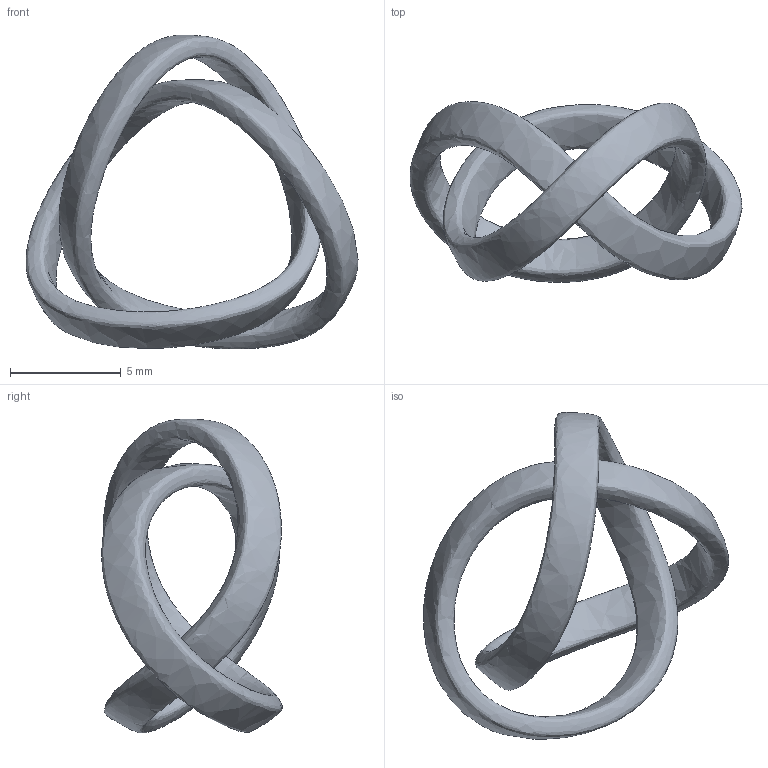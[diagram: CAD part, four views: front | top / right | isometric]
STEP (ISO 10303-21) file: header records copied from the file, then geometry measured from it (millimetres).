
FILE_DESCRIPTION(/* description */ (''),/* implementation_level */ '2;1');
FILE_NAME(/* name */ 'noeud-de-trefle-splines.step',/* time_stamp */ '2026-01-12T23:58:40+01:00',/* author */ (''),/* organization */ (''),/* preprocessor_version */ 'ST-DEVELOPER v20.1',/* originating_system */ 'Autodesk Translation Framework v14.21.0.0',/* authorisation */ '');
FILE_SCHEMA (('AUTOMOTIVE_DESIGN { 1 0 10303 214 3 1 1 }'));
Length unit declared in the file: millimetre
Products named in the file (2): noeud-de-trefle-ring-18-arrondis; noeud-de-trefle-10-16mm-render
Assembly tree (1 placements, depth 2):
  noeud-de-trefle-ring-18-arrondis
    noeud-de-trefle-10-16mm-render
Bounding box: 14.96 x 8.13 x 14.14 mm (x, y, z)
Volume: 159.4 mm3; surface area: 459.3 mm2
Topology: 1 solids, 1 shells, 1 faces, 2 edges, 1 vertices
Faces by surface type: bspline 1
Entity records: 894 total; most frequent: CARTESIAN_POINT 794, DIRECTION 8, PRESENTATION_STYLE_ASSIGNMENT 5, ORIENTED_EDGE 4, AXIS2_PLACEMENT_3D 4, SURFACE_STYLE_USAGE 4, SURFACE_SIDE_STYLE 4, SURFACE_STYLE_FILL_AREA 4
